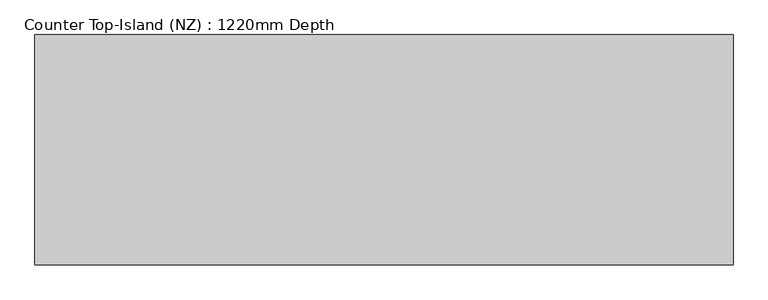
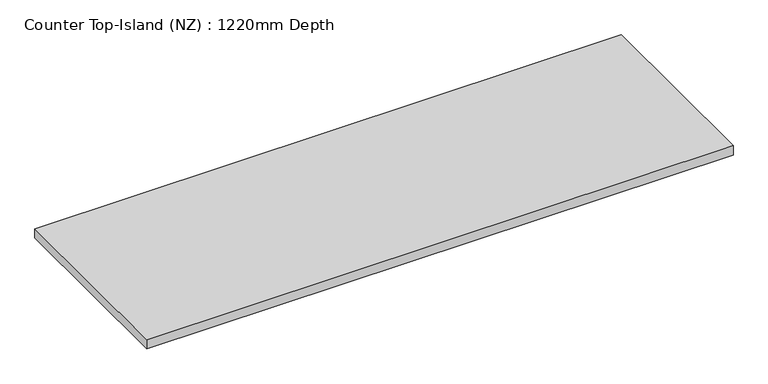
"""IFC4 building model written with IfcOpenShell, lengths in millimetres: furniture geometry, Counter Top-Island (NZ) : 1220mm Depth."""

from ifc_helpers import new_model, si_unit, frame, origin, place, context, project, spatial, polyline, outline, extrude, source, transform, mapped, element, save


def counter_top_island_nz_1220mm_depth_e2049a35(model_context):
    return source(origin(), model_context, "Body", "SweptSolid", [
        extrude(outline(polyline([(1224.5377049, 25.4), (1224.5377049, -774.6), (-1200.4622951, -774.6), (-1200.4622951, 25.4), (1224.5377049, 25.4)])), frame((0.0, 0.0, 860.0), z_axis=(0.0, 0.0, 1.0), x_axis=(1.0, 0.0, 0.0)), (0.0, 0.0, 1.0), 40.0),
    ])


if __name__ == "__main__":
    model = new_model("IFC4")
    model_context = context("Model", 3, world=origin())
    ifc_project = project(units=[si_unit("LENGTHUNIT", "METRE", prefix="MILLI")], contexts=[model_context])
    site = spatial("IfcSite", under=ifc_project)
    building = spatial("IfcBuilding", under=site)
    placement = place(None, origin())
    counter_top_island_nz_1220mm_depth_shape = counter_top_island_nz_1220mm_depth_e2049a35(model_context)
    element("IfcFurniture", 1, ObjectType="Counter Top-Island (NZ) : 1220mm Depth", at=placement, inside=building, context=model_context, shape_type="MappedRepresentation", body=[
        mapped(counter_top_island_nz_1220mm_depth_shape, transform((0.0, 0.0, 0.0), x_axis=(1.0, 0.0, 0.0), y_axis=(0.0, 1.0, 0.0), z_axis=(0.0, 0.0, 1.0))),
    ])
    save(model, "model.ifc")
